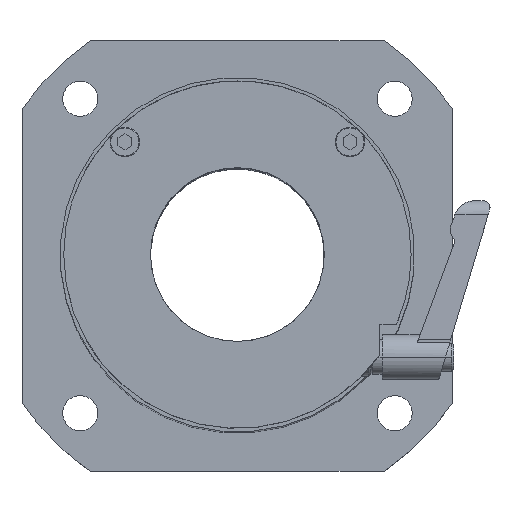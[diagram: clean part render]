
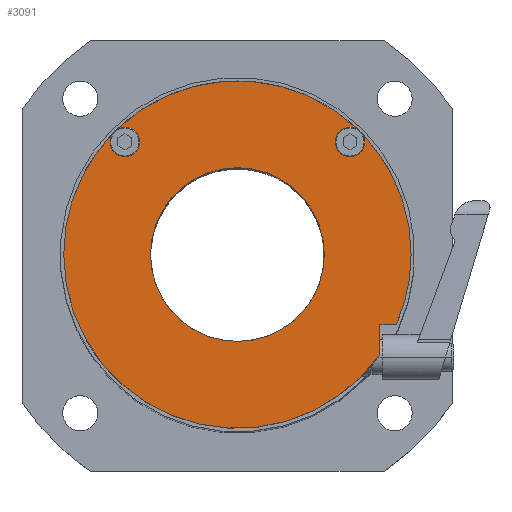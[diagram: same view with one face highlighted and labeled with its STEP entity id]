
A CAD part, top view. The second image highlights one B-rep face of the part: STEP entity #3091.
In plain terms, the highlighted planar face has unit normal (0, 0, 1).
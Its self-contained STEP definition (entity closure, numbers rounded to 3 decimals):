
#32 = VERTEX_POINT ( 'NONE', #7013 ) ;
#117 = DIRECTION ( 'NONE',  ( 1., 0., 0. ) ) ;
#355 = CIRCLE ( 'NONE', #7746, 50. ) ;
#404 = ORIENTED_EDGE ( 'NONE', *, *, #8729, .T. ) ;
#445 = AXIS2_PLACEMENT_3D ( 'NONE', #6271, #2156, #4925 ) ;
#575 = ORIENTED_EDGE ( 'NONE', *, *, #8381, .F. ) ;
#873 = DIRECTION ( 'NONE',  ( 1., 0., 0. ) ) ;
#900 = EDGE_CURVE ( 'NONE', #7290, #3000, #6180, .T. ) ;
#914 = DIRECTION ( 'NONE',  ( 0., 0., 1. ) ) ;
#919 = CARTESIAN_POINT ( 'NONE',  ( -35.647, 33.009, 110. ) ) ;
#967 = DIRECTION ( 'NONE',  ( 1., 0., 0. ) ) ;
#1108 = AXIS2_PLACEMENT_3D ( 'NONE', #1572, #2193, #873 ) ;
#1109 = DIRECTION ( 'NONE',  ( 0., 0., 1. ) ) ;
#1155 = DIRECTION ( 'NONE',  ( 1., 0., 0. ) ) ;
#1198 = CARTESIAN_POINT ( 'NONE',  ( 32.673, 35.39, 110. ) ) ;
#1245 = EDGE_LOOP ( 'NONE', ( #6865, #2141 ) ) ;
#1280 = CARTESIAN_POINT ( 'NONE',  ( -3.247, 0.609, 110. ) ) ;
#1374 = PLANE ( 'NONE',  #4420 ) ;
#1415 = DIRECTION ( 'NONE',  ( 1., 0., 0. ) ) ;
#1479 = CIRCLE ( 'NONE', #8125, 4.25 ) ;
#1550 = VERTEX_POINT ( 'NONE', #3028 ) ;
#1572 = CARTESIAN_POINT ( 'NONE',  ( -3.247, 0.609, 110. ) ) ;
#1587 = DIRECTION ( 'NONE',  ( 0., 0., 1. ) ) ;
#1610 = AXIS2_PLACEMENT_3D ( 'NONE', #3151, #5918, #1155 ) ;
#1677 = CIRCLE ( 'NONE', #8765, 4.25 ) ;
#1688 = VECTOR ( 'NONE', #4021, 1000. ) ;
#1769 = CARTESIAN_POINT ( 'NONE',  ( 37.753, -19.391, 110. ) ) ;
#1903 = DIRECTION ( 'NONE',  ( 0., 0., 1. ) ) ;
#1981 = AXIS2_PLACEMENT_3D ( 'NONE', #5255, #1903, #6668 ) ;
#2026 = CARTESIAN_POINT ( 'NONE',  ( 29.153, 33.009, 110. ) ) ;
#2099 = FACE_BOUND ( 'NONE', #1245, .T. ) ;
#2141 = ORIENTED_EDGE ( 'NONE', *, *, #900, .F. ) ;
#2156 = DIRECTION ( 'NONE',  ( 0., 0., 1. ) ) ;
#2169 = EDGE_CURVE ( 'NONE', #3669, #5073, #8030, .T. ) ;
#2193 = DIRECTION ( 'NONE',  ( 0., 0., 1. ) ) ;
#2204 = CARTESIAN_POINT ( 'NONE',  ( 29.153, 33.009, 110. ) ) ;
#2309 = AXIS2_PLACEMENT_3D ( 'NONE', #6412, #5688, #117 ) ;
#2358 = EDGE_CURVE ( 'NONE', #32, #6984, #355, .T. ) ;
#2393 = ORIENTED_EDGE ( 'NONE', *, *, #3026, .F. ) ;
#2477 = CIRCLE ( 'NONE', #3197, 4.25 ) ;
#2506 = CARTESIAN_POINT ( 'NONE',  ( 46.753, 0.609, 110. ) ) ;
#2652 = CARTESIAN_POINT ( 'NONE',  ( 31.534, 36.529, 110. ) ) ;
#2694 = EDGE_CURVE ( 'NONE', #1550, #8541, #5627, .T. ) ;
#2813 = AXIS2_PLACEMENT_3D ( 'NONE', #7623, #5454, #6133 ) ;
#2913 = DIRECTION ( 'NONE',  ( 0., 0., 1. ) ) ;
#2920 = CIRCLE ( 'NONE', #445, 50. ) ;
#3000 = VERTEX_POINT ( 'NONE', #3189 ) ;
#3026 = EDGE_CURVE ( 'NONE', #4726, #3669, #1677, .T. ) ;
#3028 = CARTESIAN_POINT ( 'NONE',  ( -39.168, 35.39, 110. ) ) ;
#3044 = DIRECTION ( 'NONE',  ( 1., 0., 0. ) ) ;
#3057 = EDGE_LOOP ( 'NONE', ( #5439, #404, #575, #3547, #2393, #4243, #4539, #7154, #5392, #4448, #5889, #8469, #4728 ) ) ;
#3091 = ADVANCED_FACE ( 'NONE', ( #4224, #2099 ), #1374, .T. ) ;
#3151 = CARTESIAN_POINT ( 'NONE',  ( -3.247, 0.609, 110. ) ) ;
#3189 = CARTESIAN_POINT ( 'NONE',  ( -28.247, 0.609, 110. ) ) ;
#3197 = AXIS2_PLACEMENT_3D ( 'NONE', #2204, #1587, #6118 ) ;
#3223 = CARTESIAN_POINT ( 'NONE',  ( 21.753, 0.609, 110. ) ) ;
#3547 = ORIENTED_EDGE ( 'NONE', *, *, #2169, .F. ) ;
#3636 = LINE ( 'NONE', #7954, #5320 ) ;
#3645 = EDGE_CURVE ( 'NONE', #8541, #4646, #6757, .T. ) ;
#3650 = EDGE_CURVE ( 'NONE', #1550, #7952, #5880, .T. ) ;
#3669 = VERTEX_POINT ( 'NONE', #4875 ) ;
#3672 = CIRCLE ( 'NONE', #1610, 25. ) ;
#3841 = LINE ( 'NONE', #1769, #1688 ) ;
#4004 = DIRECTION ( 'NONE',  ( 1., 0., 0. ) ) ;
#4021 = DIRECTION ( 'NONE',  ( 0., 1., 0. ) ) ;
#4039 = CARTESIAN_POINT ( 'NONE',  ( -31.397, 33.009, 110. ) ) ;
#4224 = FACE_OUTER_BOUND ( 'NONE', #3057, .T. ) ;
#4243 = ORIENTED_EDGE ( 'NONE', *, *, #8573, .T. ) ;
#4420 = AXIS2_PLACEMENT_3D ( 'NONE', #4956, #914, #5190 ) ;
#4448 = ORIENTED_EDGE ( 'NONE', *, *, #2694, .T. ) ;
#4486 = VERTEX_POINT ( 'NONE', #7685 ) ;
#4509 = DIRECTION ( 'NONE',  ( 0., 0., 1. ) ) ;
#4539 = ORIENTED_EDGE ( 'NONE', *, *, #8823, .F. ) ;
#4646 = VERTEX_POINT ( 'NONE', #5150 ) ;
#4657 = CARTESIAN_POINT ( 'NONE',  ( -53.247, 0.609, 110. ) ) ;
#4719 = CARTESIAN_POINT ( 'NONE',  ( -35.647, 33.009, 110. ) ) ;
#4726 = VERTEX_POINT ( 'NONE', #2652 ) ;
#4728 = ORIENTED_EDGE ( 'NONE', *, *, #7223, .T. ) ;
#4875 = CARTESIAN_POINT ( 'NONE',  ( 24.903, 33.009, 110. ) ) ;
#4925 = DIRECTION ( 'NONE',  ( 1., 0., 0. ) ) ;
#4926 = VERTEX_POINT ( 'NONE', #4039 ) ;
#4956 = CARTESIAN_POINT ( 'NONE',  ( -3.247, 0.609, 110. ) ) ;
#4960 = CARTESIAN_POINT ( 'NONE',  ( -35.647, 33.009, 110. ) ) ;
#5021 = DIRECTION ( 'NONE',  ( 1., 0., 0. ) ) ;
#5073 = VERTEX_POINT ( 'NONE', #8364 ) ;
#5149 = VERTEX_POINT ( 'NONE', #6330 ) ;
#5150 = CARTESIAN_POINT ( 'NONE',  ( 37.753, -28.009, 110. ) ) ;
#5190 = DIRECTION ( 'NONE',  ( 1., 0., 0. ) ) ;
#5255 = CARTESIAN_POINT ( 'NONE',  ( -3.247, 0.609, 110. ) ) ;
#5320 = VECTOR ( 'NONE', #3044, 1000. ) ;
#5392 = ORIENTED_EDGE ( 'NONE', *, *, #3650, .F. ) ;
#5405 = DIRECTION ( 'NONE',  ( 1., 0., 0. ) ) ;
#5439 = ORIENTED_EDGE ( 'NONE', *, *, #2358, .T. ) ;
#5454 = DIRECTION ( 'NONE',  ( 0., 0., 1. ) ) ;
#5627 = CIRCLE ( 'NONE', #2309, 50. ) ;
#5688 = DIRECTION ( 'NONE',  ( 0., 0., 1. ) ) ;
#5880 = CIRCLE ( 'NONE', #6612, 4.25 ) ;
#5889 = ORIENTED_EDGE ( 'NONE', *, *, #3645, .T. ) ;
#5918 = DIRECTION ( 'NONE',  ( 0., 0., 1. ) ) ;
#6051 = EDGE_CURVE ( 'NONE', #4646, #4486, #3841, .T. ) ;
#6118 = DIRECTION ( 'NONE',  ( 1., 0., 0. ) ) ;
#6133 = DIRECTION ( 'NONE',  ( 1., 0., 0. ) ) ;
#6180 = CIRCLE ( 'NONE', #1981, 25. ) ;
#6271 = CARTESIAN_POINT ( 'NONE',  ( -3.247, 0.609, 110. ) ) ;
#6330 = CARTESIAN_POINT ( 'NONE',  ( -38.029, 36.529, 110. ) ) ;
#6412 = CARTESIAN_POINT ( 'NONE',  ( -3.247, 0.609, 110. ) ) ;
#6612 = AXIS2_PLACEMENT_3D ( 'NONE', #4960, #2913, #7815 ) ;
#6668 = DIRECTION ( 'NONE',  ( 1., 0., 0. ) ) ;
#6757 = CIRCLE ( 'NONE', #1108, 50. ) ;
#6865 = ORIENTED_EDGE ( 'NONE', *, *, #7854, .F. ) ;
#6906 = VERTEX_POINT ( 'NONE', #1198 ) ;
#6984 = VERTEX_POINT ( 'NONE', #2506 ) ;
#7013 = CARTESIAN_POINT ( 'NONE',  ( 42.578, -19.391, 110. ) ) ;
#7047 = DIRECTION ( 'NONE',  ( 0., 0., 1. ) ) ;
#7154 = ORIENTED_EDGE ( 'NONE', *, *, #8413, .F. ) ;
#7223 = EDGE_CURVE ( 'NONE', #4486, #32, #3636, .T. ) ;
#7290 = VERTEX_POINT ( 'NONE', #3223 ) ;
#7362 = CARTESIAN_POINT ( 'NONE',  ( -3.247, 0.609, 110. ) ) ;
#7551 = CIRCLE ( 'NONE', #7841, 4.25 ) ;
#7623 = CARTESIAN_POINT ( 'NONE',  ( 29.153, 33.009, 110. ) ) ;
#7685 = CARTESIAN_POINT ( 'NONE',  ( 37.753, -19.391, 110. ) ) ;
#7746 = AXIS2_PLACEMENT_3D ( 'NONE', #1280, #1109, #1415 ) ;
#7815 = DIRECTION ( 'NONE',  ( 1., 0., 0. ) ) ;
#7841 = AXIS2_PLACEMENT_3D ( 'NONE', #919, #4509, #967 ) ;
#7854 = EDGE_CURVE ( 'NONE', #3000, #7290, #3672, .T. ) ;
#7952 = VERTEX_POINT ( 'NONE', #8256 ) ;
#7954 = CARTESIAN_POINT ( 'NONE',  ( 37.753, -19.391, 110. ) ) ;
#8030 = CIRCLE ( 'NONE', #2813, 4.25 ) ;
#8125 = AXIS2_PLACEMENT_3D ( 'NONE', #4719, #7047, #5021 ) ;
#8219 = DIRECTION ( 'NONE',  ( 0., 0., 1. ) ) ;
#8256 = CARTESIAN_POINT ( 'NONE',  ( -39.897, 33.009, 110. ) ) ;
#8263 = AXIS2_PLACEMENT_3D ( 'NONE', #7362, #8896, #4004 ) ;
#8364 = CARTESIAN_POINT ( 'NONE',  ( 33.403, 33.009, 110. ) ) ;
#8381 = EDGE_CURVE ( 'NONE', #5073, #6906, #2477, .T. ) ;
#8413 = EDGE_CURVE ( 'NONE', #7952, #4926, #1479, .T. ) ;
#8469 = ORIENTED_EDGE ( 'NONE', *, *, #6051, .T. ) ;
#8541 = VERTEX_POINT ( 'NONE', #4657 ) ;
#8573 = EDGE_CURVE ( 'NONE', #4726, #5149, #8844, .T. ) ;
#8729 = EDGE_CURVE ( 'NONE', #6984, #6906, #2920, .T. ) ;
#8765 = AXIS2_PLACEMENT_3D ( 'NONE', #2026, #8219, #5405 ) ;
#8823 = EDGE_CURVE ( 'NONE', #4926, #5149, #7551, .T. ) ;
#8844 = CIRCLE ( 'NONE', #8263, 50. ) ;
#8896 = DIRECTION ( 'NONE',  ( 0., 0., 1. ) ) ;
